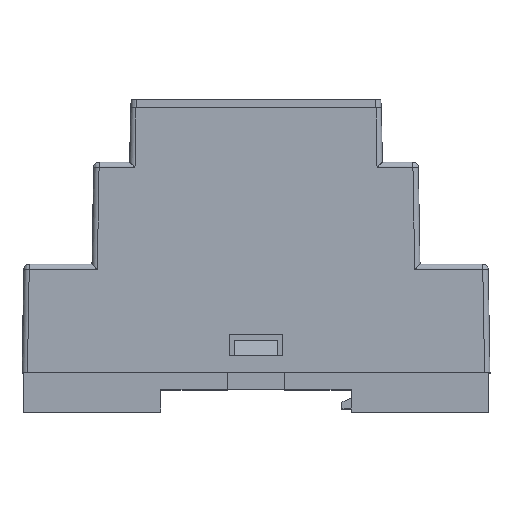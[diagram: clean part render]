
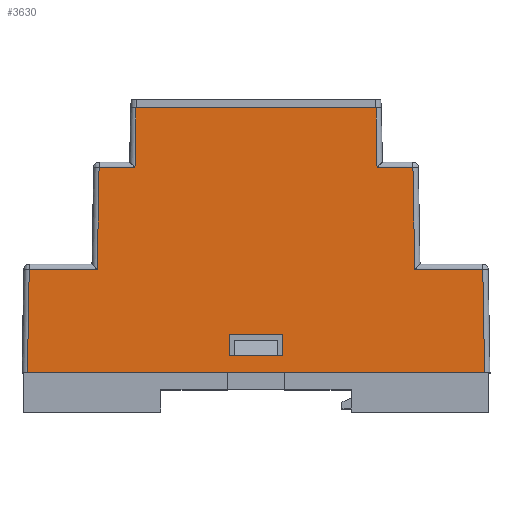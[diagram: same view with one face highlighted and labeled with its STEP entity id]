
A CAD part, top view. The second image highlights one B-rep face of the part: STEP entity #3630.
In plain terms, the highlighted planar face has unit normal (0, 0.009, 1).
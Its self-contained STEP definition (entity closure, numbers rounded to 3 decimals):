
#12 = CARTESIAN_POINT ( 'NONE',  ( -43.15, 3.1, 34.973 ) ) ;
#196 = CARTESIAN_POINT ( 'NONE',  ( 41.818, 19.009, 34.834 ) ) ;
#330 = LINE ( 'NONE', #5347, #3155 ) ;
#488 = VECTOR ( 'NONE', #619, 1000. ) ;
#619 = DIRECTION ( 'NONE',  ( -1., 0., 0. ) ) ;
#707 = VECTOR ( 'NONE', #3927, 1000. ) ;
#801 = AXIS2_PLACEMENT_3D ( 'NONE', #11678, #6582, #7320 ) ;
#1051 = CARTESIAN_POINT ( 'NONE',  ( 4.9, 0., 35. ) ) ;
#1122 = VERTEX_POINT ( 'NONE', #10783 ) ;
#1142 = DIRECTION ( 'NONE',  ( 1., 0., 0. ) ) ;
#1225 = DIRECTION ( 'NONE',  ( 1., 0., 0. ) ) ;
#1305 = CARTESIAN_POINT ( 'NONE',  ( -29.267, 19.009, 34.834 ) ) ;
#1314 = CARTESIAN_POINT ( 'NONE',  ( -22.317, 37.809, 34.67 ) ) ;
#1353 = EDGE_LOOP ( 'NONE', ( #4204, #10300, #10536, #5116, #3904, #13046, #6900, #1441, #3126, #4960, #3771, #9527 ) ) ;
#1433 = CARTESIAN_POINT ( 'NONE',  ( -43.15, 37.809, 34.67 ) ) ;
#1441 = ORIENTED_EDGE ( 'NONE', *, *, #9267, .T. ) ;
#1506 = VERTEX_POINT ( 'NONE', #9570 ) ;
#1766 = LINE ( 'NONE', #5838, #8853 ) ;
#1841 = VERTEX_POINT ( 'NONE', #1314 ) ;
#1948 = CARTESIAN_POINT ( 'NONE',  ( -41.818, 19.009, 34.834 ) ) ;
#1971 = DIRECTION ( 'NONE',  ( -1., 0., 0. ) ) ;
#2162 = LINE ( 'NONE', #2289, #6180 ) ;
#2289 = CARTESIAN_POINT ( 'NONE',  ( -43.15, 0., 35. ) ) ;
#2322 = CARTESIAN_POINT ( 'NONE',  ( -4.9, 0., 35. ) ) ;
#2343 = CARTESIAN_POINT ( 'NONE',  ( -43.15, 19.009, 34.834 ) ) ;
#2370 = LINE ( 'NONE', #9209, #7310 ) ;
#2508 = VECTOR ( 'NONE', #8016, 1000. ) ;
#2750 = EDGE_CURVE ( 'NONE', #1122, #11918, #2162, .T. ) ;
#2808 = VERTEX_POINT ( 'NONE', #4755 ) ;
#3042 = LINE ( 'NONE', #3907, #4793 ) ;
#3090 = EDGE_CURVE ( 'NONE', #11918, #7328, #3949, .T. ) ;
#3113 = EDGE_CURVE ( 'NONE', #7095, #3922, #330, .T. ) ;
#3126 = ORIENTED_EDGE ( 'NONE', *, *, #8236, .T. ) ;
#3155 = VECTOR ( 'NONE', #1142, 1000. ) ;
#3501 = CARTESIAN_POINT ( 'NONE',  ( -22.125, 48.8, 34.574 ) ) ;
#3630 = ADVANCED_FACE ( 'NONE', ( #11548, #8589 ), #7584, .T. ) ;
#3771 = ORIENTED_EDGE ( 'NONE', *, *, #6688, .T. ) ;
#3904 = ORIENTED_EDGE ( 'NONE', *, *, #2750, .T. ) ;
#3907 = CARTESIAN_POINT ( 'NONE',  ( -43.15, 19.009, 34.834 ) ) ;
#3922 = VERTEX_POINT ( 'NONE', #4965 ) ;
#3927 = DIRECTION ( 'NONE',  ( 0., -1., 0.009 ) ) ;
#3949 = LINE ( 'NONE', #4812, #2508 ) ;
#4098 = VERTEX_POINT ( 'NONE', #3501 ) ;
#4204 = ORIENTED_EDGE ( 'NONE', *, *, #9406, .T. ) ;
#4242 = EDGE_CURVE ( 'NONE', #12378, #5630, #8959, .T. ) ;
#4279 = VERTEX_POINT ( 'NONE', #1948 ) ;
#4434 = VECTOR ( 'NONE', #5329, 1000. ) ;
#4471 = CARTESIAN_POINT ( 'NONE',  ( 22.317, 37.809, 34.67 ) ) ;
#4496 = VERTEX_POINT ( 'NONE', #5669 ) ;
#4740 = ORIENTED_EDGE ( 'NONE', *, *, #11771, .T. ) ;
#4755 = CARTESIAN_POINT ( 'NONE',  ( 22.317, 37.809, 34.67 ) ) ;
#4793 = VECTOR ( 'NONE', #1971, 1000. ) ;
#4812 = CARTESIAN_POINT ( 'NONE',  ( 42.15, 0., 35. ) ) ;
#4960 = ORIENTED_EDGE ( 'NONE', *, *, #7260, .T. ) ;
#4965 = CARTESIAN_POINT ( 'NONE',  ( 4.9, 7.1, 34.938 ) ) ;
#5116 = ORIENTED_EDGE ( 'NONE', *, *, #10502, .T. ) ;
#5194 = LINE ( 'NONE', #5257, #5908 ) ;
#5257 = CARTESIAN_POINT ( 'NONE',  ( -22.125, 48.8, 34.574 ) ) ;
#5329 = DIRECTION ( 'NONE',  ( 0., 1., -0.009 ) ) ;
#5347 = CARTESIAN_POINT ( 'NONE',  ( -43.15, 7.1, 34.938 ) ) ;
#5623 = EDGE_CURVE ( 'NONE', #7328, #1506, #10387, .T. ) ;
#5630 = VERTEX_POINT ( 'NONE', #9512 ) ;
#5669 = CARTESIAN_POINT ( 'NONE',  ( -28.939, 37.809, 34.67 ) ) ;
#5838 = CARTESIAN_POINT ( 'NONE',  ( -41.818, 19.009, 34.834 ) ) ;
#5904 = DIRECTION ( 'NONE',  ( -0.017, -1., 0.009 ) ) ;
#5908 = VECTOR ( 'NONE', #8199, 1000. ) ;
#6141 = VERTEX_POINT ( 'NONE', #1305 ) ;
#6180 = VECTOR ( 'NONE', #1225, 1000. ) ;
#6420 = DIRECTION ( 'NONE',  ( -1., 0., 0. ) ) ;
#6430 = VECTOR ( 'NONE', #12114, 1000. ) ;
#6582 = DIRECTION ( 'NONE',  ( 0., 0.009, 1. ) ) ;
#6584 = DIRECTION ( 'NONE',  ( -1., 0., 0. ) ) ;
#6630 = CARTESIAN_POINT ( 'NONE',  ( -43.15, 37.809, 34.67 ) ) ;
#6688 = EDGE_CURVE ( 'NONE', #8329, #4098, #12623, .T. ) ;
#6816 = CARTESIAN_POINT ( 'NONE',  ( 4.9, 3.1, 34.973 ) ) ;
#6900 = ORIENTED_EDGE ( 'NONE', *, *, #5623, .T. ) ;
#6985 = VECTOR ( 'NONE', #7510, 1000. ) ;
#7095 = VERTEX_POINT ( 'NONE', #12851 ) ;
#7138 = VECTOR ( 'NONE', #8872, 1000. ) ;
#7182 = DIRECTION ( 'NONE',  ( -0.017, 1., -0.009 ) ) ;
#7260 = EDGE_CURVE ( 'NONE', #2808, #8329, #7340, .T. ) ;
#7310 = VECTOR ( 'NONE', #7182, 1000. ) ;
#7320 = DIRECTION ( 'NONE',  ( 0., -1., 0.009 ) ) ;
#7328 = VERTEX_POINT ( 'NONE', #196 ) ;
#7340 = LINE ( 'NONE', #4471, #12325 ) ;
#7380 = VERTEX_POINT ( 'NONE', #7545 ) ;
#7510 = DIRECTION ( 'NONE',  ( -1., 0., 0. ) ) ;
#7545 = CARTESIAN_POINT ( 'NONE',  ( 28.939, 37.809, 34.67 ) ) ;
#7584 = PLANE ( 'NONE',  #801 ) ;
#7681 = EDGE_CURVE ( 'NONE', #4098, #1841, #5194, .T. ) ;
#7883 = ORIENTED_EDGE ( 'NONE', *, *, #4242, .T. ) ;
#8016 = DIRECTION ( 'NONE',  ( -0.017, 1., -0.009 ) ) ;
#8091 = ORIENTED_EDGE ( 'NONE', *, *, #3113, .T. ) ;
#8199 = DIRECTION ( 'NONE',  ( -0.017, -1., 0.009 ) ) ;
#8236 = EDGE_CURVE ( 'NONE', #7380, #2808, #9801, .T. ) ;
#8329 = VERTEX_POINT ( 'NONE', #12867 ) ;
#8589 = FACE_BOUND ( 'NONE', #11938, .T. ) ;
#8749 = EDGE_CURVE ( 'NONE', #3922, #12378, #10092, .T. ) ;
#8853 = VECTOR ( 'NONE', #5904, 1000. ) ;
#8872 = DIRECTION ( 'NONE',  ( -0.017, -1., 0.009 ) ) ;
#8959 = LINE ( 'NONE', #12, #6430 ) ;
#9209 = CARTESIAN_POINT ( 'NONE',  ( 29.267, 19.009, 34.834 ) ) ;
#9267 = EDGE_CURVE ( 'NONE', #1506, #7380, #2370, .T. ) ;
#9406 = EDGE_CURVE ( 'NONE', #1841, #4496, #10614, .T. ) ;
#9512 = CARTESIAN_POINT ( 'NONE',  ( -4.9, 3.1, 34.973 ) ) ;
#9527 = ORIENTED_EDGE ( 'NONE', *, *, #7681, .T. ) ;
#9570 = CARTESIAN_POINT ( 'NONE',  ( 29.267, 19.009, 34.834 ) ) ;
#9801 = LINE ( 'NONE', #6630, #6985 ) ;
#9958 = LINE ( 'NONE', #12159, #7138 ) ;
#10092 = LINE ( 'NONE', #1051, #707 ) ;
#10300 = ORIENTED_EDGE ( 'NONE', *, *, #11639, .T. ) ;
#10387 = LINE ( 'NONE', #2343, #11348 ) ;
#10502 = EDGE_CURVE ( 'NONE', #4279, #1122, #1766, .T. ) ;
#10521 = EDGE_CURVE ( 'NONE', #6141, #4279, #3042, .T. ) ;
#10536 = ORIENTED_EDGE ( 'NONE', *, *, #10521, .T. ) ;
#10614 = LINE ( 'NONE', #1433, #488 ) ;
#10783 = CARTESIAN_POINT ( 'NONE',  ( -42.15, 0., 35. ) ) ;
#11348 = VECTOR ( 'NONE', #6420, 1000. ) ;
#11362 = LINE ( 'NONE', #2322, #4434 ) ;
#11548 = FACE_OUTER_BOUND ( 'NONE', #1353, .T. ) ;
#11639 = EDGE_CURVE ( 'NONE', #4496, #6141, #9958, .T. ) ;
#11678 = CARTESIAN_POINT ( 'NONE',  ( -43.15, 0., 35. ) ) ;
#11745 = CARTESIAN_POINT ( 'NONE',  ( -23.125, 48.8, 34.574 ) ) ;
#11771 = EDGE_CURVE ( 'NONE', #5630, #7095, #11362, .T. ) ;
#11918 = VERTEX_POINT ( 'NONE', #12825 ) ;
#11938 = EDGE_LOOP ( 'NONE', ( #11982, #7883, #4740, #8091 ) ) ;
#11982 = ORIENTED_EDGE ( 'NONE', *, *, #8749, .T. ) ;
#12114 = DIRECTION ( 'NONE',  ( -1., 0., 0. ) ) ;
#12159 = CARTESIAN_POINT ( 'NONE',  ( -28.939, 37.809, 34.67 ) ) ;
#12316 = VECTOR ( 'NONE', #6584, 1000. ) ;
#12325 = VECTOR ( 'NONE', #12500, 1000. ) ;
#12378 = VERTEX_POINT ( 'NONE', #6816 ) ;
#12500 = DIRECTION ( 'NONE',  ( -0.017, 1., -0.009 ) ) ;
#12623 = LINE ( 'NONE', #11745, #12316 ) ;
#12825 = CARTESIAN_POINT ( 'NONE',  ( 42.15, 0., 35. ) ) ;
#12851 = CARTESIAN_POINT ( 'NONE',  ( -4.9, 7.1, 34.938 ) ) ;
#12867 = CARTESIAN_POINT ( 'NONE',  ( 22.125, 48.8, 34.574 ) ) ;
#13046 = ORIENTED_EDGE ( 'NONE', *, *, #3090, .T. ) ;
